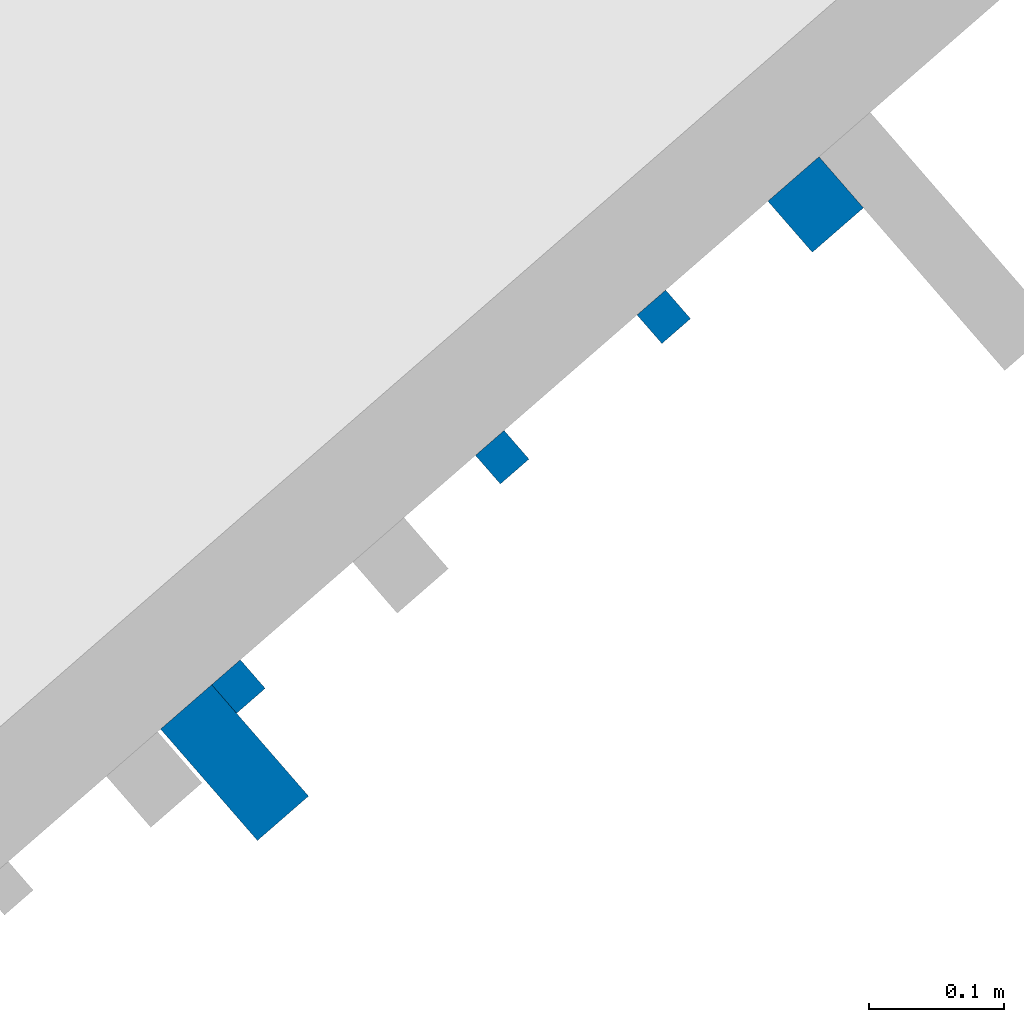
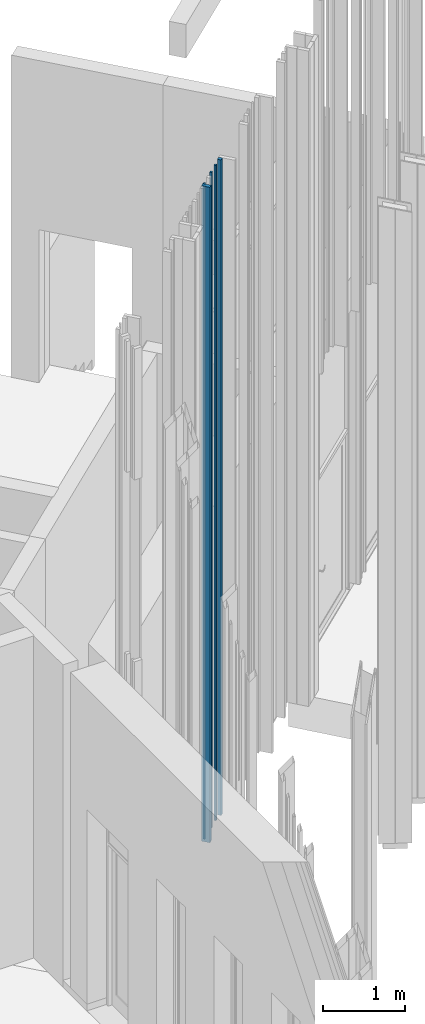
# One storey, part 199 of 390: 5 walls.
"""IFC2X3 building model written with IfcOpenShell, lengths in millimetres."""

import ifcopenshell
import ifcopenshell.guid

model = None  # the IFC model being written
_history = None  # IfcOwnerHistory: only IFC2X3 demands one
_inside = {}  # id of a spatial element -> (the spatial element, [elements in it])
_under = {}  # id of a project, library or spatial element -> (it, [spatial elements below it])
_declared = {}  # id of a project -> (the project, [libraries it declares])
_typed = {}  # id of a type object -> (the type object, [elements of that type])
_made_of = {}  # id of a material, layer set ... -> (it, [elements and type objects made of it])


def new_model(schema):
    """Start an empty IFC model of exactly this schema.

    Asked for "IFC4X3", IfcOpenShell would pick the latest addendum, in which some entities
    have other attributes; the version numbers below select the first issue.
    IFC2X3 requires an IfcOwnerHistory on every rooted entity: one is made here for all.
    """
    global model, _history
    if schema == "IFC4X3":
        model = ifcopenshell.file(schema_version=(4, 3, 0, 0))
    else:
        model = ifcopenshell.file(schema=schema)
    _inside.clear()
    _under.clear()
    _declared.clear()
    _typed.clear()
    _made_of.clear()
    _history = None
    if model.schema == "IFC2X3":
        org = make("IfcOrganization", Name="unknown")
        user = make(
            "IfcPersonAndOrganization",
            ThePerson=make("IfcPerson", FamilyName="unknown"),
            TheOrganization=org,
        )
        app = make(
            "IfcApplication",
            ApplicationDeveloper=org,
            Version="unknown",
            ApplicationFullName="unknown",
            ApplicationIdentifier="unknown",
        )
        _history = make(
            "IfcOwnerHistory",
            OwningUser=user,
            OwningApplication=app,
            ChangeAction="ADDED",
            CreationDate=0,
        )
    return model


def make(cls, **values):
    """One entity of the class cls with the attributes given. An attribute that is None is left unset."""
    return model.create_entity(
        cls, **{name: value for name, value in values.items() if value is not None}
    )


def entity(cls, *values):
    """Any entity or typed value of the class cls, its attributes in the order of the schema. None: left unset."""
    e = model.create_entity(cls)
    for i, value in enumerate(values):
        if value is not None:
            e[i] = value
    return e


def rooted(cls, **values):
    """An entity with a GlobalId (a new one), such as an element, a storey or a relation."""
    return make(cls, GlobalId=ifcopenshell.guid.new(), OwnerHistory=_history, **values)


def si_unit(unit_type, name, prefix=None):
    """IfcSIUnit, for example si_unit("LENGTHUNIT", "METRE", prefix="MILLI")."""
    return make("IfcSIUnit", UnitType=unit_type, Prefix=prefix, Name=name)


def converted_unit(unit_type, name, factor, base, dimensions=None, offset=None):
    """IfcConversionBasedUnit, such as the inch: factor (a typed value) times the base unit."""
    return make(
        "IfcConversionBasedUnit"
        if offset is None
        else "IfcConversionBasedUnitWithOffset",
        ConversionOffset=offset,
        Dimensions=None
        if dimensions is None
        else entity("IfcDimensionalExponents", *dimensions),
        UnitType=unit_type,
        Name=name,
        ConversionFactor=make(
            "IfcMeasureWithUnit", ValueComponent=factor, UnitComponent=base
        ),
    )


def derived_unit(unit_type, elements):
    """IfcDerivedUnit: a product of units, each with its exponent."""
    return make(
        "IfcDerivedUnit",
        Elements=[
            make("IfcDerivedUnitElement", Unit=unit, Exponent=power)
            for unit, power in elements
        ],
        UnitType=unit_type,
    )


def money_unit(currency):
    """IfcMonetaryUnit."""
    return make("IfcMonetaryUnit", Currency=currency)


def assignment(units):
    """IfcUnitAssignment: the units of a project."""
    return None if units is None else make("IfcUnitAssignment", Units=units)


def point(xyz):
    """IfcCartesianPoint."""
    return None if xyz is None else make("IfcCartesianPoint", Coordinates=xyz)


def direction(xyz):
    """IfcDirection."""
    return None if xyz is None else make("IfcDirection", DirectionRatios=xyz)


def frame(location, z_axis=None, x_axis=None):
    """IfcAxis2Placement3D, a coordinate frame: its origin and axes. An axis left out is left unset."""
    return make(
        "IfcAxis2Placement3D",
        Location=point(location),
        Axis=direction(z_axis),
        RefDirection=direction(x_axis),
    )


def origin_with_axes():
    """The frame at (0, 0, 0) with the z axis (0, 0, 1) and the x axis (1, 0, 0) written out."""
    return frame((0.0, 0.0, 0.0), z_axis=(0.0, 0.0, 1.0), x_axis=(1.0, 0.0, 0.0))


def place(relative_to, where):
    """IfcLocalPlacement: puts the frame where relative to a parent placement (None: the world)."""
    return make(
        "IfcLocalPlacement", PlacementRelTo=relative_to, RelativePlacement=where
    )


def context(
    kind, dimensions, precision=None, world=None, true_north=None, identifier=None
):
    """IfcGeometricRepresentationContext, for example the 3D "Model" context."""
    return make(
        "IfcGeometricRepresentationContext",
        ContextIdentifier=identifier,
        ContextType=kind,
        CoordinateSpaceDimension=dimensions,
        Precision=precision,
        WorldCoordinateSystem=world,
        TrueNorth=true_north,
    )


def subcontext(parent, identifier, kind, view, scale=None):
    """IfcGeometricRepresentationSubContext, for example "Body" below "Model"."""
    return make(
        "IfcGeometricRepresentationSubContext",
        ContextIdentifier=identifier,
        ContextType=kind,
        ParentContext=parent,
        TargetScale=scale,
        TargetView=view,
    )


def project(units=None, contexts=None):
    """IfcProject with its units and contexts."""
    return rooted(
        "IfcProject",
        Name="project",
        RepresentationContexts=contexts,
        UnitsInContext=assignment(units),
    )


def spatial(cls, under=None, at=None, **own):
    """A site, building, storey or space (cls), placed at a placement, below another one or the project."""
    s = rooted(cls, ObjectPlacement=at, **own)
    if under is not None:
        _under.setdefault(under.id(), (under, []))[1].append(s)
    return s


def faces_of(points, faces, orient=None, outer=None):
    """IfcFace entities. A face is a list of loops; a loop is a list of indices into points, from 0.

    orient and outer hold one flag for each loop. By default every Orientation is true, the
    first loop of a face is its IfcFaceOuterBound and the others are IfcFaceBound.
    """
    made = []
    for i, loops in enumerate(faces):
        bounds = []
        for j, loop in enumerate(loops):
            is_outer = j == 0 if outer is None else outer[i][j]
            bounds.append(
                make(
                    "IfcFaceOuterBound" if is_outer else "IfcFaceBound",
                    Bound=make("IfcPolyLoop", Polygon=[points[k] for k in loop]),
                    Orientation=True if orient is None else orient[i][j],
                )
            )
        made.append(make("IfcFace", Bounds=bounds))
    return made


def faceted_brep(points, faces, orient=None, outer=None, voids=None):
    """IfcFacetedBrep: a solid bounded by flat faces; with voids (closed shells), ...WithVoids."""
    shared = [point(p) for p in points]
    hull = make("IfcClosedShell", CfsFaces=faces_of(shared, faces, orient, outer))
    if voids is None:
        return make("IfcFacetedBrep", Outer=hull)
    return make(
        "IfcFacetedBrepWithVoids",
        Outer=hull,
        Voids=[
            make(cls, CfsFaces=faces_of(shared, fs, o, b)) for cls, fs, o, b in voids
        ],
    )


def shape(context_of_items, identifier, shape_type, items):
    """IfcShapeRepresentation: the items that make up one representation, for example the "Body"."""
    return make(
        "IfcShapeRepresentation",
        ContextOfItems=context_of_items,
        RepresentationIdentifier=identifier,
        RepresentationType=shape_type,
        Items=items,
    )


def material(Name=None, Category=None):
    """IfcMaterial."""
    return make("IfcMaterial", Name=Name, Category=Category)


def made_of(thing, what):
    """Note that an element or type object is made of a material, layer set ...; save() writes the relation."""
    if what is not None:
        _made_of.setdefault(what.id(), (what, []))[1].append(thing)
    return thing


def type_object(cls, material=None, **own):
    """A type object (cls), such as IfcWallType, which elements share."""
    return made_of(rooted(cls, **own), material)


def element(
    cls,
    number,
    at=None,
    inside=None,
    cuts=None,
    type_object=None,
    material=None,
    context=None,
    identifier="Body",
    shape_type=None,
    held_by="IfcProductDefinitionShape",
    body=None,
    shapes=None,
    **own,
):
    """One element of the class cls, such as IfcWall. Its Tag is "e" and its number.

    at: its placement. inside: the storey or other place that contains it. cuts: it is an
    opening in that element (IfcRelVoidsElement). A single representation is given by context,
    identifier, shape_type and body (its items); several are given by shapes. held_by: the class
    of the entity that holds the representations. save() writes the other relations.
    """
    e = rooted(cls, Tag="e%d" % number, ObjectPlacement=at, **own)
    if body is not None:
        shapes = [shape(context, identifier, shape_type, body)]
    if shapes is not None:
        e.Representation = make(held_by, Representations=shapes)
    if inside is not None:
        _inside.setdefault(inside.id(), (inside, []))[1].append(e)
    if cuts is not None:
        rooted(
            "IfcRelVoidsElement", RelatingBuildingElement=cuts, RelatedOpeningElement=e
        )
    if type_object is not None:
        _typed.setdefault(type_object.id(), (type_object, []))[1].append(e)
    return made_of(e, material)


def aggregate(whole, parts):
    """IfcRelAggregates: a whole, such as a stair, and the parts it consists of."""
    return rooted("IfcRelAggregates", RelatingObject=whole, RelatedObjects=parts)


def save(model, path):
    """Write the relations noted so far, then the file.

    IfcRelAggregates (storeys below a building ...), IfcRelContainedInSpatialStructure (elements
    in a storey), IfcRelDefinesByType, IfcRelAssociatesMaterial and IfcRelDeclares: one each for
    every whole, place, type object, material and project.
    """
    for whole, parts in _under.values():
        aggregate(whole, parts)
    for where, things in _inside.values():
        rooted(
            "IfcRelContainedInSpatialStructure",
            RelatedElements=things,
            RelatingStructure=where,
        )
    for kind, things in _typed.values():
        rooted("IfcRelDefinesByType", RelatedObjects=things, RelatingType=kind)
    for what, things in _made_of.values():
        rooted("IfcRelAssociatesMaterial", RelatedObjects=things, RelatingMaterial=what)
    for by, libraries in _declared.values():
        rooted("IfcRelDeclares", RelatingContext=by, RelatedDefinitions=libraries)
    model.write(path)


model = new_model("IFC2X3")

# Units and contexts
model_context = context("Model", 3, precision=1e-05, world=origin_with_axes(), true_north=direction((0.0, 1.0)))
body_context = subcontext(model_context, "Body", "Model", "MODEL_VIEW")
ifc_project = project(units=[si_unit("LENGTHUNIT", "METRE", prefix="MILLI"), si_unit("AREAUNIT", "SQUARE_METRE"), si_unit("VOLUMEUNIT", "CUBIC_METRE"), converted_unit("PLANEANGLEUNIT", "DEGREE", entity("IfcPlaneAngleMeasure", 0.0174532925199), si_unit("PLANEANGLEUNIT", "RADIAN"), dimensions=[0, 0, 0, 0, 0, 0, 0]), si_unit("SOLIDANGLEUNIT", "STERADIAN"), money_unit("EUR"), converted_unit("TIMEUNIT", "Year", entity("IfcTimeMeasure", 31556926.0), si_unit("TIMEUNIT", "SECOND"), dimensions=[0, 0, 1, 0, 0, 0, 0]), si_unit("MASSUNIT", "GRAM", prefix="KILO"), si_unit("THERMODYNAMICTEMPERATUREUNIT", "DEGREE_CELSIUS"), si_unit("LUMINOUSINTENSITYUNIT", "LUMEN"), si_unit("ENERGYUNIT", "JOULE", prefix="MEGA"), derived_unit("THERMALCONDUCTANCEUNIT", [(si_unit("POWERUNIT", "WATT"), 1), (si_unit("LENGTHUNIT", "METRE"), -1), (si_unit("THERMODYNAMICTEMPERATUREUNIT", "KELVIN"), -1)]), derived_unit("SPECIFICHEATCAPACITYUNIT", [(si_unit("ENERGYUNIT", "JOULE"), 1), (si_unit("MASSUNIT", "GRAM", prefix="KILO"), -1), (si_unit("THERMODYNAMICTEMPERATUREUNIT", "KELVIN"), -1)]), derived_unit("MASSDENSITYUNIT", [(si_unit("MASSUNIT", "GRAM", prefix="KILO"), 1), (si_unit("VOLUMEUNIT", "CUBIC_METRE"), -1)])], contexts=[model_context])

# Site, building, storey
site_placement = place(None, origin_with_axes())
site = spatial("IfcSite", under=ifc_project, at=site_placement, Name="Site", CompositionType="ELEMENT")
building_placement = place(site_placement, origin_with_axes())
building = spatial("IfcBuilding", under=site, at=building_placement, Name="Building", CompositionType="ELEMENT")
storey_placement = place(building_placement, origin_with_axes())
storey = spatial("IfcBuildingStorey", under=building, at=storey_placement, Name="1 korrus", CompositionType="ELEMENT", Elevation=0.0)

# Walls
ifc_material = material(Name="Site specified")
wall_type = type_object("IfcWallType", Name="Puitfassaadi ribistik", PredefinedType="NOTDEFINED")
wall_1_placement = place(storey_placement, frame((142606.344435, 68610.9957405, 100.0), z_axis=(0.0, 0.0, 1.0), x_axis=(-0.754709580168, -0.656059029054, 0.0)))
element("IfcWall", 1, at=wall_1_placement, inside=storey, type_object=wall_type, material=ifc_material, Name="Site specified", context=body_context, shape_type="Brep", body=[
    faceted_brep([(-14.0, -14.0, 9765.0), (-14.0, -14.0, 0.0), (14.0, -14.0, 0.0), (14.0, -14.0, 9765.0), (-14.0, 14.0, 9765.0), (-14.0, 14.0, 0.0), (14.0, 14.0, 0.0), (14.0, 14.0, 9765.0)], [[[0, 1, 2, 3]], [[4, 5, 1, 0]], [[2, 1, 5, 6]], [[3, 2, 6, 7]], [[4, 0, 3, 7]], [[7, 6, 5, 4]]]),
])
wall_2_placement = place(storey_placement, frame((142289.521966, 68281.9231443, 100.0), z_axis=(0.0, 0.0, 1.0), x_axis=(-0.754709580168, -0.656059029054, 0.0)))
element("IfcWall", 2, at=wall_2_placement, inside=storey, type_object=wall_type, material=ifc_material, Name="Site specified", context=body_context, shape_type="Brep", body=[
    faceted_brep([(-25.0, -54.5, 9765.0), (-25.0, -54.5, 0.0), (25.0, -54.5, 0.0), (25.0, -54.5, 9765.0), (-25.0, 54.5, 9765.0), (-25.0, 54.5, 0.0), (25.0, 54.5, 0.0), (25.0, 54.5, 9765.0)], [[[0, 1, 2, 3]], [[4, 5, 1, 0]], [[2, 1, 5, 6]], [[3, 2, 6, 7]], [[4, 0, 3, 7]], [[7, 6, 5, 4]]]),
])
wall_3_placement = place(storey_placement, frame((142718.465716, 68693.8861402, 100.0), z_axis=(0.0, 0.0, 1.0), x_axis=(-0.754709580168, -0.656059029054, 0.0)))
element("IfcWall", 3, at=wall_3_placement, inside=storey, type_object=wall_type, material=ifc_material, Name="Site specified", context=body_context, shape_type="Brep", body=[
    faceted_brep([(-25.0, -25.0, 9765.0), (-25.0, -25.0, 0.0), (25.0, -25.0, 0.0), (25.0, -25.0, 9765.0), (-25.0, 25.0, 9765.0), (-25.0, 25.0, 0.0), (25.0, 25.0, 0.0), (25.0, 25.0, 9765.0)], [[[0, 1, 2, 3]], [[4, 5, 1, 0]], [[2, 1, 5, 6]], [[3, 2, 6, 7]], [[4, 0, 3, 7]], [[7, 6, 5, 4]]]),
])
for number, where, z_axis, x_axis, name in (
    (4, (142487.100321, 68507.3384139, 100.0), (0.0, 0.0, 1.0), (-0.754709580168, -0.656059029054, 0.0), "Site specified"),
    (5, (142292.385249, 68338.0751844, 100.0), (0.0, 0.0, 1.0), (-0.754709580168, -0.656059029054, 0.0), "Site specified"),
):
    element("IfcWall", number, at=place(storey_placement, frame(where, z_axis=z_axis, x_axis=x_axis)), inside=storey, type_object=wall_type, material=ifc_material, Name=name, context=body_context, shape_type="Brep", body=[
        faceted_brep([(-14.0, -14.0, 9765.0), (-14.0, -14.0, 0.0), (14.0, -14.0, 0.0), (14.0, -14.0, 9765.0), (-14.0, 14.0, 9765.0), (-14.0, 14.0, 0.0), (14.0, 14.0, 0.0), (14.0, 14.0, 9765.0)], [[[0, 1, 2, 3]], [[4, 5, 1, 0]], [[2, 1, 5, 6]], [[3, 2, 6, 7]], [[4, 0, 3, 7]], [[7, 6, 5, 4]]]),
    ])

save(model, "model.ifc")
